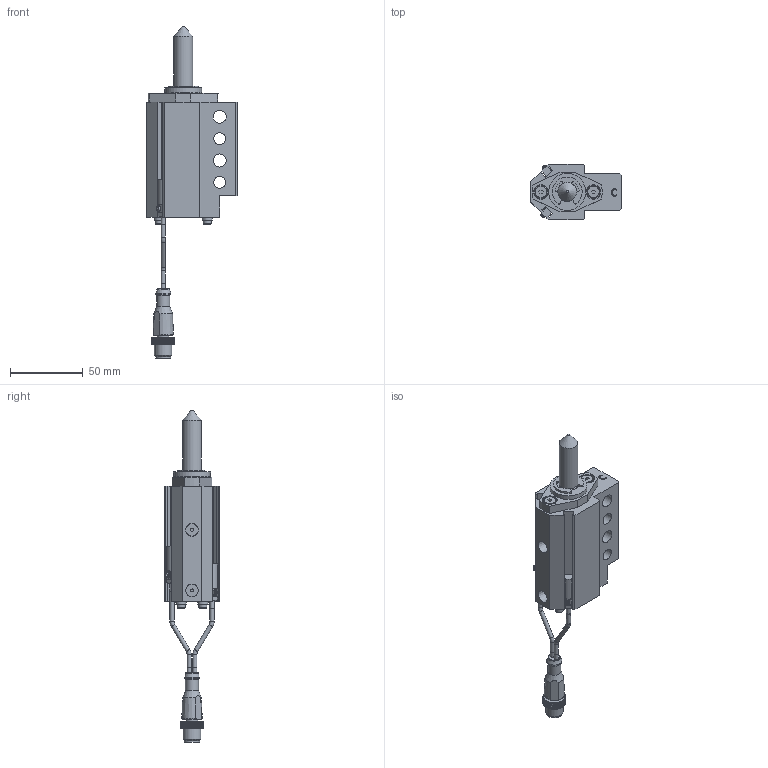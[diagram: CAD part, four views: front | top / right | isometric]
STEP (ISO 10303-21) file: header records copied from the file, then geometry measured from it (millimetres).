
FILE_DESCRIPTION(/* description */ ('NAAMS FLOATING MICRO PIN'),/* implementation_level */ '2;1');
FILE_NAME(/* name */ 'C:\Vault Workspace\CAD\Welker\Shot Pin\NMP\NMP130032ACNL3.stp',/* time_stamp */ '2021-01-27T10:55:16-05:00',/* author */ ('WELKER'),/* organization */ (''),/* preprocessor_version */ 'ST-DEVELOPER v18.1',/* originating_system */ 'Autodesk Inventor 2020',/* authorisation */ '');
FILE_SCHEMA (('AUTOMOTIVE_DESIGN { 1 0 10303 214 3 1 1 }'));
Length unit declared in the file: millimetre
Products named in the file (16): NMPL01; NMP L3 SWITCH; L3 Connector; L3 Sensor 1; L3 Sensor 2; L3 Sensor cable; L3 Sensor cable 2; M3X0.5-8 SHCS; NL3; NMPE06; NMPE03; NMPE05-DIA-LENGTH; 985432A218; NMPE01C-PORT; RMPE02; M5X5 SHOULDER
Assembly tree (22 placements, depth 3):
  NMPL01
    NMP L3 SWITCH
      L3 Connector
      L3 Sensor 1
      L3 Sensor 2
      L3 Sensor cable
      L3 Sensor cable 2
    M3X0.5-8 SHCS  x4
    NL3  x4
    NMPE06
    NMPE03
    NMPE05-DIA-LENGTH
    985432A218
    NMPE01C-PORT
    RMPE02
    M5X5 SHOULDER  x2
Bounding box: 62 x 38.1 x 227.71 mm (x, y, z)
Volume: 113976.9 mm3; surface area: 46251.1 mm2
Topology: 21 solids, 21 shells, 750 faces, 2035 edges, 1360 vertices
Faces by surface type: plane 544, cylinder 143, cone 31, bspline 18, torus 11, sphere 3
Full cylindrical faces by diameter (mm): 2 x2, 2.459 x4, 2.9 x10, 3 x5, 3.242 x2, 3.4 x4, 4 x2, 5 x6, 5.5 x4, 7 x4, 8 x2, 8.3 x2, 9 x5, 10 x3, 10.4 x1, 10.5 x1, 12 x1, 13 x3, 16 x2, 19.05 x3, 21 x1, 22.5 x1, 23.672 x1, 24 x1, 25.4 x1, 25.5 x1, 26.5 x1, 28.677 x1, 29.21 x1, 31.75 x2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
Entity records: 22996 total; most frequent: CARTESIAN_POINT 4356, ORIENTED_EDGE 3768, DIRECTION 3682, EDGE_CURVE 1884, LINE 1376, VECTOR 1376, VERTEX_POINT 1265, AXIS2_PLACEMENT_3D 1153
